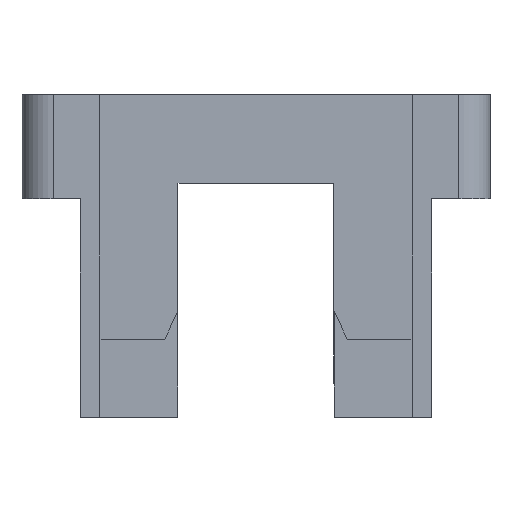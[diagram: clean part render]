
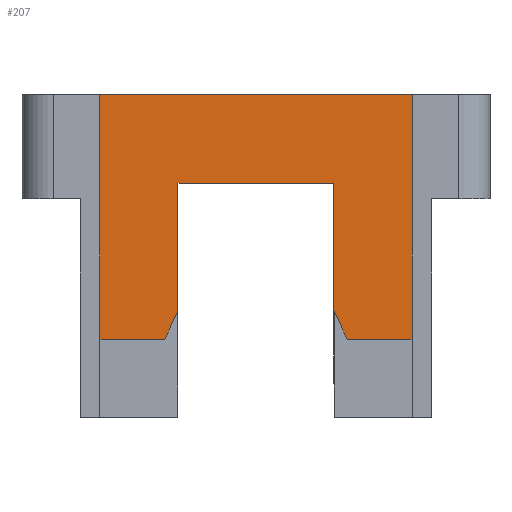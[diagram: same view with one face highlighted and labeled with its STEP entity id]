
A CAD part, front view. The second image highlights one B-rep face of the part: STEP entity #207.
In plain terms, the highlighted planar face has unit normal (0, -1, 0).
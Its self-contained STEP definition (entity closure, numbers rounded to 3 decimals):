
#147=PLANE('',#1641);
#207=ADVANCED_FACE('',(#305),#147,.F.);
#305=FACE_OUTER_BOUND('',#381,.T.);
#381=EDGE_LOOP('',(#916,#917,#918,#919,#920,#921,#922,#923,#924,#925));
#507=LINE('',#2230,#647);
#551=LINE('',#2385,#691);
#552=LINE('',#2389,#692);
#553=LINE('',#2391,#693);
#554=LINE('',#2392,#694);
#555=LINE('',#2394,#695);
#556=LINE('',#2396,#696);
#557=LINE('',#2398,#697);
#558=LINE('',#2400,#698);
#559=LINE('',#2402,#699);
#647=VECTOR('',#1745,1.);
#691=VECTOR('',#1873,1.);
#692=VECTOR('',#1878,1.);
#693=VECTOR('',#1879,1.);
#694=VECTOR('',#1880,1.);
#695=VECTOR('',#1881,1.);
#696=VECTOR('',#1882,1.);
#697=VECTOR('',#1883,1.);
#698=VECTOR('',#1884,1.);
#699=VECTOR('',#1885,1.);
#916=ORIENTED_EDGE('',*,*,#1451,.F.);
#917=ORIENTED_EDGE('',*,*,#1449,.T.);
#918=ORIENTED_EDGE('',*,*,#1452,.F.);
#919=ORIENTED_EDGE('',*,*,#1378,.T.);
#920=ORIENTED_EDGE('',*,*,#1453,.T.);
#921=ORIENTED_EDGE('',*,*,#1454,.T.);
#922=ORIENTED_EDGE('',*,*,#1455,.F.);
#923=ORIENTED_EDGE('',*,*,#1456,.F.);
#924=ORIENTED_EDGE('',*,*,#1457,.T.);
#925=ORIENTED_EDGE('',*,*,#1458,.T.);
#1235=VERTEX_POINT('',#2229);
#1236=VERTEX_POINT('',#2231);
#1286=VERTEX_POINT('',#2380);
#1288=VERTEX_POINT('',#2384);
#1290=VERTEX_POINT('',#2390);
#1291=VERTEX_POINT('',#2393);
#1292=VERTEX_POINT('',#2395);
#1293=VERTEX_POINT('',#2397);
#1294=VERTEX_POINT('',#2399);
#1295=VERTEX_POINT('',#2401);
#1378=EDGE_CURVE('',#1236,#1235,#507,.T.);
#1449=EDGE_CURVE('',#1286,#1288,#551,.T.);
#1451=EDGE_CURVE('',#1286,#1290,#552,.T.);
#1452=EDGE_CURVE('',#1236,#1288,#553,.T.);
#1453=EDGE_CURVE('',#1235,#1291,#554,.T.);
#1454=EDGE_CURVE('',#1291,#1292,#555,.T.);
#1455=EDGE_CURVE('',#1293,#1292,#556,.T.);
#1456=EDGE_CURVE('',#1294,#1293,#557,.T.);
#1457=EDGE_CURVE('',#1294,#1295,#558,.T.);
#1458=EDGE_CURVE('',#1295,#1290,#559,.T.);
#1641=AXIS2_PLACEMENT_3D('',#2403,#1886,#1887);
#1745=DIRECTION('',(-1.,0.,0.));
#1873=DIRECTION('',(1.,0.,0.));
#1878=DIRECTION('',(-0.412,0.,0.911));
#1879=DIRECTION('',(0.,0.,-1.));
#1880=DIRECTION('',(0.,0.,-1.));
#1881=DIRECTION('',(1.,0.,0.));
#1882=DIRECTION('',(-0.412,0.,-0.911));
#1883=DIRECTION('',(0.,0.,-1.));
#1884=DIRECTION('',(1.,0.,0.));
#1885=DIRECTION('',(0.,0.,-1.));
#1886=DIRECTION('',(0.,1.,0.));
#1887=DIRECTION('',(0.,0.,1.));
#2229=CARTESIAN_POINT('',(69.788,101.05,57.));
#2230=CARTESIAN_POINT('',(69.788,101.05,57.));
#2231=CARTESIAN_POINT('',(109.788,101.05,57.));
#2380=CARTESIAN_POINT('',(101.465,101.05,25.65));
#2384=CARTESIAN_POINT('',(109.788,101.05,25.65));
#2385=CARTESIAN_POINT('',(69.788,101.05,25.65));
#2389=CARTESIAN_POINT('',(79.636,101.05,73.95));
#2390=CARTESIAN_POINT('',(99.788,101.05,29.359));
#2391=CARTESIAN_POINT('',(109.788,101.05,69.5));
#2392=CARTESIAN_POINT('',(69.788,101.05,69.5));
#2393=CARTESIAN_POINT('',(69.788,101.05,25.65));
#2394=CARTESIAN_POINT('',(69.788,101.05,25.65));
#2395=CARTESIAN_POINT('',(78.112,101.05,25.65));
#2396=CARTESIAN_POINT('',(93.157,101.05,58.939));
#2397=CARTESIAN_POINT('',(79.788,101.05,29.359));
#2398=CARTESIAN_POINT('',(79.788,101.05,45.65));
#2399=CARTESIAN_POINT('',(79.788,101.05,45.65));
#2400=CARTESIAN_POINT('',(69.788,101.05,45.65));
#2401=CARTESIAN_POINT('',(99.788,101.05,45.65));
#2402=CARTESIAN_POINT('',(99.788,101.05,45.65));
#2403=CARTESIAN_POINT('',(69.788,101.05,69.5));
